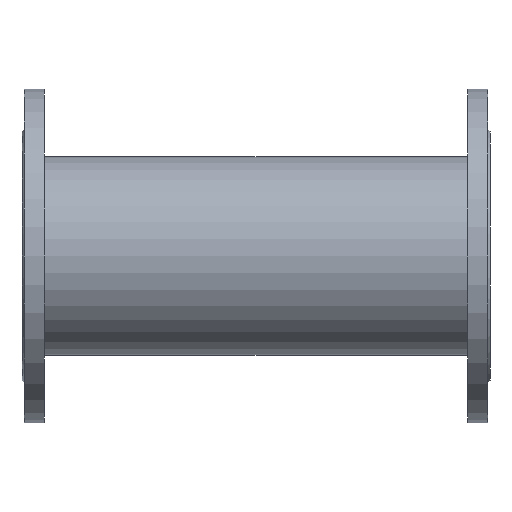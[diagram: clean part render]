
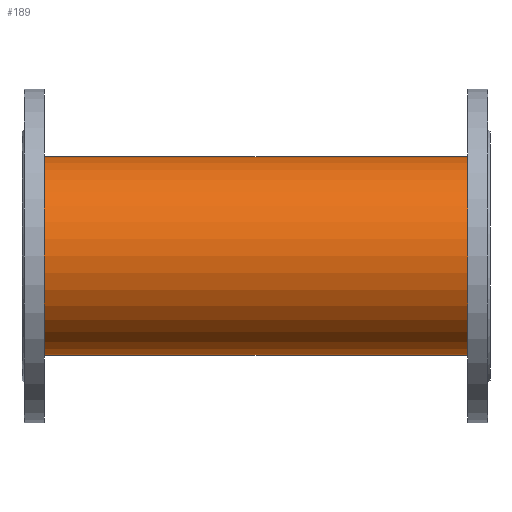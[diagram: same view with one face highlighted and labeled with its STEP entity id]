
A CAD part, front view. The second image highlights one B-rep face of the part: STEP entity #189.
In plain terms, the highlighted cylindrical face has radius 85 mm (diameter 170 mm), a partial arc.
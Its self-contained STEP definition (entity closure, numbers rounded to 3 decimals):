
#189=ADVANCED_FACE('',(#393),#394,.T.);
#393=FACE_OUTER_BOUND('',#655,.T.);
#394=CYLINDRICAL_SURFACE('',#656,85.0);
#655=EDGE_LOOP('',(#1037,#1038,#1039,#1040));
#656=AXIS2_PLACEMENT_3D('',#1041,#1042,#1043);
#1037=ORIENTED_EDGE('',*,*,#1467,.T.);
#1038=ORIENTED_EDGE('',*,*,#1425,.T.);
#1039=ORIENTED_EDGE('',*,*,#1468,.T.);
#1040=ORIENTED_EDGE('',*,*,#1451,.T.);
#1041=CARTESIAN_POINT('',(7.5,0.0,0.));
#1042=DIRECTION('',(1.0,0.0,0.));
#1043=DIRECTION('',(0.,0.0,-1.0));
#1425=EDGE_CURVE('',#1702,#1703,#1704,.T.);
#1451=EDGE_CURVE('',#1744,#1743,#1746,.T.);
#1467=EDGE_CURVE('',#1743,#1702,#1772,.T.);
#1468=EDGE_CURVE('',#1703,#1744,#1773,.T.);
#1702=VERTEX_POINT('',#2047);
#1703=VERTEX_POINT('',#2048);
#1704=CIRCLE('',#2049,85.0);
#1743=VERTEX_POINT('',#2096);
#1744=VERTEX_POINT('',#2097);
#1746=CIRCLE('',#2099,85.0);
#1772=LINE('',#2131,#2132);
#1773=LINE('',#2133,#2134);
#2047=CARTESIAN_POINT('',(392.5,0.0,-85.0));
#2048=CARTESIAN_POINT('',(392.5,0.,85.0));
#2049=AXIS2_PLACEMENT_3D('',#2421,#2422,#2423);
#2096=CARTESIAN_POINT('',(7.5,0.0,-85.0));
#2097=CARTESIAN_POINT('',(7.5,0.,85.0));
#2099=AXIS2_PLACEMENT_3D('',#2465,#2466,#2467);
#2131=CARTESIAN_POINT('',(7.5,0.,-85.0));
#2132=VECTOR('',#2489,1.0);
#2133=CARTESIAN_POINT('',(7.5,0.,85.0));
#2134=VECTOR('',#2490,1.0);
#2421=CARTESIAN_POINT('',(392.5,0.0,0.));
#2422=DIRECTION('',(-1.0,-0.0,0.));
#2423=DIRECTION('',(0.,0.0,-1.0));
#2465=CARTESIAN_POINT('',(7.5,0.0,0.));
#2466=DIRECTION('',(1.0,0.0,0.));
#2467=DIRECTION('',(0.,0.0,-1.0));
#2489=DIRECTION('',(1.0,0.0,0.));
#2490=DIRECTION('',(-1.0,-0.0,0.));
